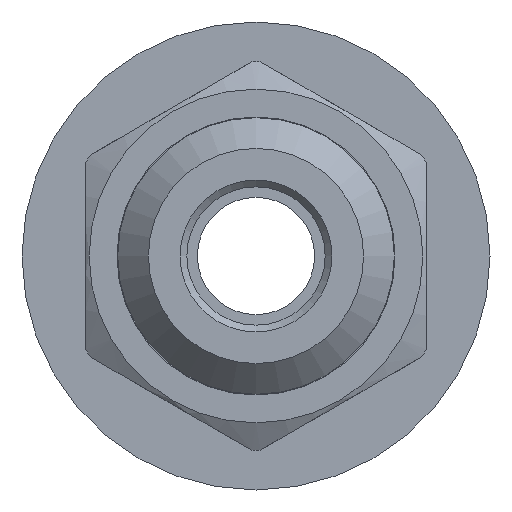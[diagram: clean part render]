
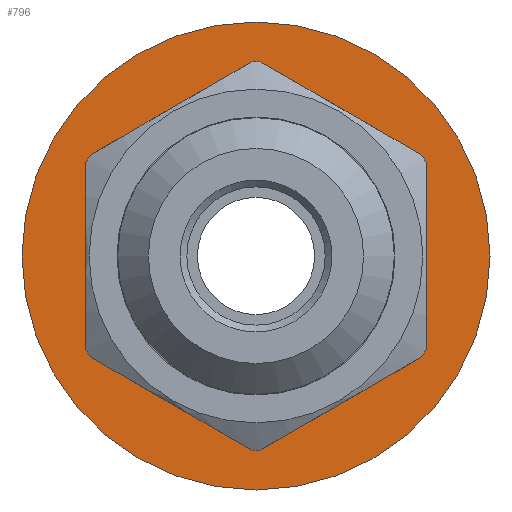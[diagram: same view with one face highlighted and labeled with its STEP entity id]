
A CAD part, front view. The second image highlights one B-rep face of the part: STEP entity #796.
In plain terms, the highlighted planar face has unit normal (0, -1, 0).
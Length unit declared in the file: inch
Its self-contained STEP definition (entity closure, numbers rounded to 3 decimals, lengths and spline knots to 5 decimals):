
#48=FACE_BOUND('',#159,.T.);
#60=PLANE('',#901);
#108=FACE_OUTER_BOUND('',#158,.T.);
#158=EDGE_LOOP('',(#620,#621));
#159=EDGE_LOOP('',(#622,#623));
#291=CIRCLE('',#902,0.3435);
#292=CIRCLE('',#903,0.3435);
#293=CIRCLE('',#904,0.164);
#294=CIRCLE('',#905,0.164);
#364=VERTEX_POINT('',#1346);
#365=VERTEX_POINT('',#1347);
#366=VERTEX_POINT('',#1350);
#367=VERTEX_POINT('',#1351);
#460=EDGE_CURVE('',#364,#365,#291,.T.);
#461=EDGE_CURVE('',#365,#364,#292,.T.);
#462=EDGE_CURVE('',#366,#367,#293,.T.);
#463=EDGE_CURVE('',#367,#366,#294,.T.);
#620=ORIENTED_EDGE('',*,*,#460,.T.);
#621=ORIENTED_EDGE('',*,*,#461,.T.);
#622=ORIENTED_EDGE('',*,*,#462,.F.);
#623=ORIENTED_EDGE('',*,*,#463,.F.);
#796=ADVANCED_FACE('',(#108,#48),#60,.T.);
#901=AXIS2_PLACEMENT_3D('',#1345,#1085,#1086);
#902=AXIS2_PLACEMENT_3D('',#1348,#1087,#1088);
#903=AXIS2_PLACEMENT_3D('',#1349,#1089,#1090);
#904=AXIS2_PLACEMENT_3D('',#1352,#1091,#1092);
#905=AXIS2_PLACEMENT_3D('',#1353,#1093,#1094);
#1085=DIRECTION('center_axis',(0.,-1.,0.));
#1086=DIRECTION('ref_axis',(0.,0.,-1.));
#1087=DIRECTION('center_axis',(0.,-1.,0.));
#1088=DIRECTION('ref_axis',(1.,0.,0.));
#1089=DIRECTION('center_axis',(0.,-1.,0.));
#1090=DIRECTION('ref_axis',(1.,0.,0.));
#1091=DIRECTION('center_axis',(0.,-1.,0.));
#1092=DIRECTION('ref_axis',(1.,0.,0.));
#1093=DIRECTION('center_axis',(0.,-1.,0.));
#1094=DIRECTION('ref_axis',(1.,0.,0.));
#1345=CARTESIAN_POINT('Origin',(0.,0.,-0.164));
#1346=CARTESIAN_POINT('',(0.,0.,-0.3435));
#1347=CARTESIAN_POINT('',(0.,0.,0.3435));
#1348=CARTESIAN_POINT('Origin',(0.,0.,0.));
#1349=CARTESIAN_POINT('Origin',(0.,0.,0.));
#1350=CARTESIAN_POINT('',(0.,0.,-0.164));
#1351=CARTESIAN_POINT('',(0.,0.,0.164));
#1352=CARTESIAN_POINT('Origin',(0.,0.,0.));
#1353=CARTESIAN_POINT('Origin',(0.,0.,0.));
